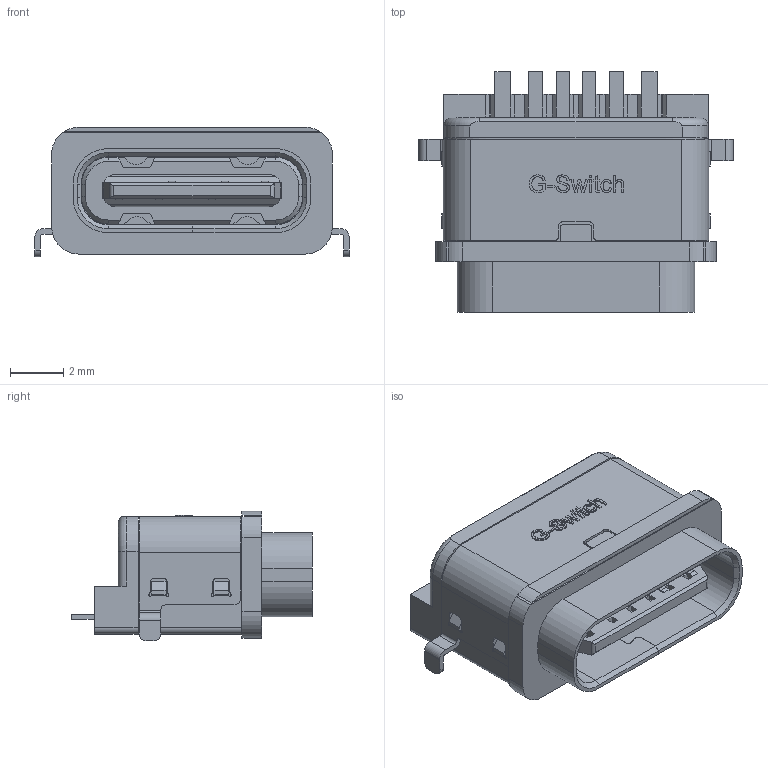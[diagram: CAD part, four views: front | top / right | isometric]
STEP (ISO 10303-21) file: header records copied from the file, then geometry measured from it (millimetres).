
FILE_DESCRIPTION (( 'STEP AP203' ), '1' );
FILE_NAME ('GT-USB-7040A.stp', '2023-04-12T08:39:44', ( '' ), ( '' ), 'SwSTEP 2.0', 'SolidWorks 2023', '' );
FILE_SCHEMA (( 'CONFIG_CONTROL_DESIGN' ));
Length unit declared in the file: millimetre
Products named in the file (3): GT-USB-7040A; 6P沉板17.05.06_asm-外模.1.1.stp; AA0B010-077.stp
Assembly tree (2 placements, depth 3):
  GT-USB-7040A
    AA0B010-077.stp
      6P沉板17.05.06_asm-外模.1.1.stp
Bounding box: 11.8 x 9.05 x 4.86 mm (x, y, z)
Volume: 214.3 mm3; surface area: 663.9 mm2
Topology: 2 solids, 36 shells, 1076 faces, 2868 edges, 1892 vertices
Faces by surface type: plane 785, cylinder 239, bspline 40, cone 10, torus 2
Entity records: 35905 total; most frequent: CARTESIAN_POINT 8668, ORIENTED_EDGE 5736, DIRECTION 5315, EDGE_CURVE 2868, LINE 2275, VECTOR 2275, VERTEX_POINT 1892, AXIS2_PLACEMENT_3D 1520
